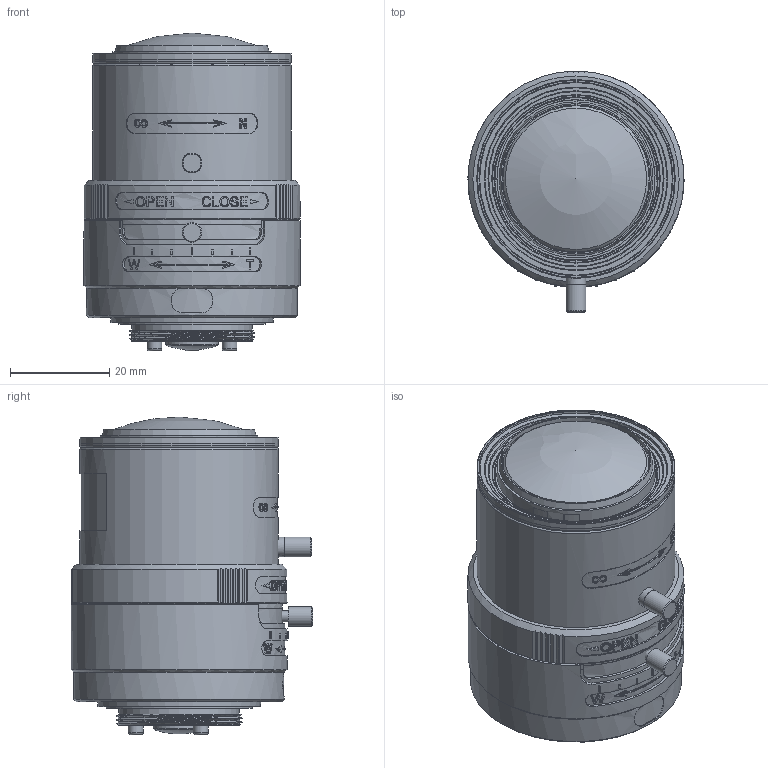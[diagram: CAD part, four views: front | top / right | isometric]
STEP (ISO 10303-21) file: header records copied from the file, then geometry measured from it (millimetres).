
FILE_DESCRIPTION(/* description */ ('Unknown'),/* implementation_level */ '2;1');
FILE_NAME(/* name */ 'A4Z2812CS-MPIR_210218',/* time_stamp */ '2021-02-18T14:11:08+09:00',/* author */ ('Unknown'),/* organization */ ('Unknown'),/* preprocessor_version */ 'ST-DEVELOPER v16.7',/* originating_system */ 'DEX',/* authorisation */ $);
FILE_SCHEMA (('AUTOMOTIVE_DESIGN {1 0 10303 214 3 1 1}'));
Length unit declared in the file: millimetre
Products named in the file (5): TKQ_1000_Manual-Assy; Mount; Zoom-Lock-Screw; Focus-Lock-Screw; Barrel-Assy
Assembly tree (4 placements, depth 2):
  TKQ_1000_Manual-Assy
    Mount
    Zoom-Lock-Screw
    Focus-Lock-Screw
    Barrel-Assy
Bounding box: 43.6 x 48.8 x 64.1 mm (x, y, z)
Volume: 76856.3 mm3; surface area: 14082.7 mm2
Topology: 4 solids, 4 shells, 635 faces, 1676 edges, 1120 vertices
Faces by surface type: plane 341, cylinder 162, bspline 69, cone 43, torus 18, sphere 2
Full cylindrical faces by diameter (mm): 1.4 x1, 1.6 x2, 2 x2, 2.2 x1, 3 x3, 4 x3, 10.5 x1, 22.5 x1, 23.5 x2, 24.3 x1, 25 x1, 29.5 x1, 31.9 x1, 38.2 x1, 40 x1, 40.064 x1, 41.538 x1, 41.67 x1, 42.6 x1, 43.6 x1
Entity records: 26090 total; most frequent: CARTESIAN_POINT 7570, ORIENTED_EDGE 3096, DIRECTION 2482, EDGE_CURVE 1548, VERTEX_POINT 1077, AXIS2_PLACEMENT_3D 901, FACE_BOUND 791, EDGE_LOOP 789
